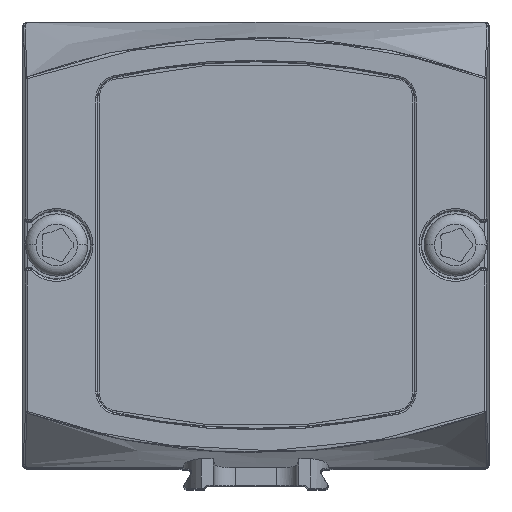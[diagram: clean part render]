
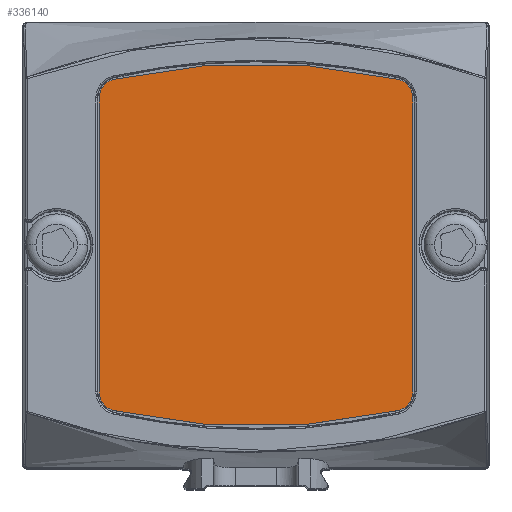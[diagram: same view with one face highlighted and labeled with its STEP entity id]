
A CAD part, top view. The second image highlights one B-rep face of the part: STEP entity #336140.
In plain terms, the highlighted planar face has unit normal (0, 0, 1) as drawn and (0, -1, 0) by its records, which use the part's own axes.
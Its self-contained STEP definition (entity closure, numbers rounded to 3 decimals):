
#335160=CARTESIAN_POINT('',(919.266,387.434,
-12.003));
#335170=VERTEX_POINT('',#335160);
#335330=CARTESIAN_POINT('',(917.827,387.434,
-10.199));
#335340=VERTEX_POINT('',#335330);
#335370=CARTESIAN_POINT('',(919.677,387.434,
-10.199));
#335380=DIRECTION('',(0.,1.,0.));
#335390=DIRECTION('',(-1.,0.,0.));
#335400=AXIS2_PLACEMENT_3D('',#335370,#335380,#335390);
#335410=CIRCLE('',#335400,1.85);
#335420=EDGE_CURVE('',#335170,#335340,#335410,.T.);
#335470=CARTESIAN_POINT('',(948.527,387.434,
-14.042));
#335480=DIRECTION('',(0.,1.,0.));
#335490=DIRECTION('',(1.,0.,0.));
#335500=AXIS2_PLACEMENT_3D('',#335470,#335480,#335490);
#335510=PLANE('',#335500);
#335520=ORIENTED_EDGE('',*,*,#335420,.F.);
#335530=CARTESIAN_POINT('',(917.827,387.434,0.));
#335540=DIRECTION('',(0.,0.,1.));
#335550=VECTOR('',#335540,1.);
#335560=LINE('',#335530,#335550);
#335570=CARTESIAN_POINT('',(917.827,387.434,
18.12));
#335580=VERTEX_POINT('',#335570);
#335590=EDGE_CURVE('',#335340,#335580,#335560,.T.);
#335600=ORIENTED_EDGE('',*,*,#335590,.F.);
#335610=CARTESIAN_POINT('',(919.677,387.434,
18.12));
#335620=DIRECTION('',(0.,1.,0.));
#335630=DIRECTION('',(1.,0.,0.));
#335640=AXIS2_PLACEMENT_3D('',#335610,#335620,#335630);
#335650=CIRCLE('',#335640,1.85);
#335660=CARTESIAN_POINT('',(919.266,387.434,
19.924));
#335670=VERTEX_POINT('',#335660);
#335680=EDGE_CURVE('',#335580,#335670,#335650,.T.);
#335690=ORIENTED_EDGE('',*,*,#335680,.F.);
#335700=CARTESIAN_POINT('',(932.927,387.434,
-40.039));
#335710=DIRECTION('',(0.,-1.,0.));
#335720=DIRECTION('',(-1.,0.,0.));
#335730=AXIS2_PLACEMENT_3D('',#335700,#335710,#335720);
#335740=CIRCLE('',#335730,61.5);
#335750=CARTESIAN_POINT('',(946.588,387.434,
19.924));
#335760=VERTEX_POINT('',#335750);
#335770=EDGE_CURVE('',#335760,#335670,#335740,.T.);
#335780=ORIENTED_EDGE('',*,*,#335770,.T.);
#335790=CARTESIAN_POINT('',(946.177,387.434,
18.12));
#335800=DIRECTION('',(0.,1.,0.));
#335810=DIRECTION('',(-1.,0.,0.));
#335820=AXIS2_PLACEMENT_3D('',#335790,#335800,#335810);
#335830=CIRCLE('',#335820,1.85);
#335840=CARTESIAN_POINT('',(948.027,387.434,
18.12));
#335850=VERTEX_POINT('',#335840);
#335860=EDGE_CURVE('',#335760,#335850,#335830,.T.);
#335870=ORIENTED_EDGE('',*,*,#335860,.F.);
#335880=CARTESIAN_POINT('',(948.027,387.434,0.));
#335890=DIRECTION('',(0.,0.,-1.));
#335900=VECTOR('',#335890,1.);
#335910=LINE('',#335880,#335900);
#335920=CARTESIAN_POINT('',(948.027,387.434,
-10.199));
#335930=VERTEX_POINT('',#335920);
#335940=EDGE_CURVE('',#335850,#335930,#335910,.T.);
#335950=ORIENTED_EDGE('',*,*,#335940,.F.);
#335960=CARTESIAN_POINT('',(946.177,387.434,
-10.199));
#335970=DIRECTION('',(0.,1.,0.));
#335980=DIRECTION('',(1.,0.,0.));
#335990=AXIS2_PLACEMENT_3D('',#335960,#335970,#335980);
#336000=CIRCLE('',#335990,1.85);
#336010=CARTESIAN_POINT('',(946.588,387.434,
-12.003));
#336020=VERTEX_POINT('',#336010);
#336030=EDGE_CURVE('',#335930,#336020,#336000,.T.);
#336040=ORIENTED_EDGE('',*,*,#336030,.F.);
#336050=CARTESIAN_POINT('',(932.927,387.434,
47.961));
#336060=DIRECTION('',(0.,-1.,0.));
#336070=DIRECTION('',(-1.,0.,0.));
#336080=AXIS2_PLACEMENT_3D('',#336050,#336060,#336070);
#336090=CIRCLE('',#336080,61.5);
#336100=EDGE_CURVE('',#335170,#336020,#336090,.T.);
#336110=ORIENTED_EDGE('',*,*,#336100,.T.);
#336120=EDGE_LOOP('',(#336110,#336040,#335950,#335870,#335780,#335690,
#335600,#335520));
#336130=FACE_OUTER_BOUND('',#336120,.T.);
#336140=ADVANCED_FACE('',(#336130),#335510,.F.);
